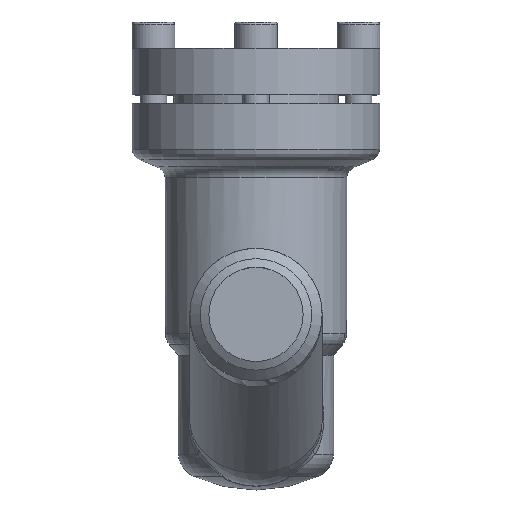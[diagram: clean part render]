
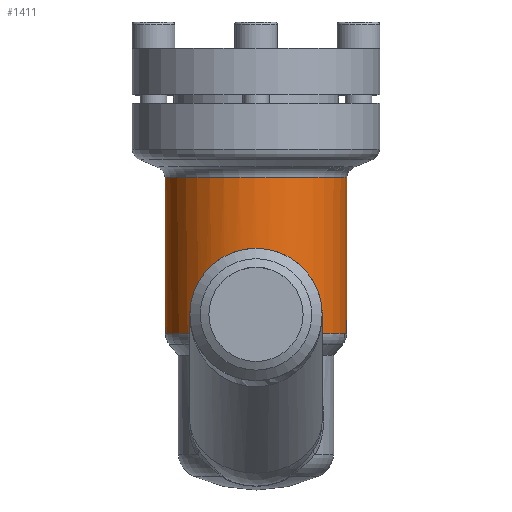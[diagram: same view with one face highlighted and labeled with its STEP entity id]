
A CAD part, top view. The second image highlights one B-rep face of the part: STEP entity #1411.
In plain terms, the highlighted cylindrical face has radius 27.5 mm (diameter 55 mm), a partial arc.
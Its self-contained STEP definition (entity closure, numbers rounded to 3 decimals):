
#96=B_SPLINE_CURVE_WITH_KNOTS('',3,(#3015,#3016,#3017,#3018,#3019,#3020,
#3021,#3022,#3023),.UNSPECIFIED.,.F.,.F.,(4,1,1,1,1,1,4),(6.571,
7.093,7.827,8.378,8.928,9.479,
9.664),.UNSPECIFIED.);
#97=B_SPLINE_CURVE_WITH_KNOTS('',3,(#3025,#3026,#3027,#3028,#3029,#3030,
#3031,#3032,#3033,#3034,#3035,#3036,#3037),.UNSPECIFIED.,.F.,.F.,(4,3,3,
3,4),(-9.665,-9.3,-8.244,-8.198,
-7.097),.UNSPECIFIED.);
#98=B_SPLINE_CURVE_WITH_KNOTS('',3,(#3041,#3042,#3043,#3044,#3045,#3046,
#3047,#3048,#3049,#3050,#3051),.UNSPECIFIED.,.F.,.F.,(4,1,1,1,1,1,1,1,4),
(-3.187,-2.086,-0.985,-0.25,
0.484,0.851,1.218,1.953,2.475),
 .UNSPECIFIED.);
#100=B_SPLINE_CURVE_WITH_KNOTS('',3,(#3252,#3253,#3254,#3255,#3256,#3257,
#3258,#3259,#3260,#3261,#3262,#3263,#3264,#3265,#3266,#3267),
 .UNSPECIFIED.,.F.,.F.,(4,1,1,1,1,1,1,1,1,1,1,1,1,4),(12.885,
13.536,13.753,14.621,14.911,15.489,
15.779,15.996,16.358,16.792,17.226,
17.768,18.094,18.962),.UNSPECIFIED.);
#193=CYLINDRICAL_SURFACE('',#1563,27.5);
#354=FACE_OUTER_BOUND('',#500,.T.);
#500=EDGE_LOOP('',(#1134,#1135,#1136,#1137,#1138,#1139,#1140));
#630=CIRCLE('',#1557,27.5);
#636=CIRCLE('',#1564,27.5);
#637=CIRCLE('',#1565,27.5);
#738=VERTEX_POINT('',#2982);
#739=VERTEX_POINT('',#2983);
#740=VERTEX_POINT('',#3014);
#741=VERTEX_POINT('',#3024);
#742=VERTEX_POINT('',#3039);
#744=VERTEX_POINT('',#3248);
#745=VERTEX_POINT('',#3250);
#879=EDGE_CURVE('',#738,#740,#96,.T.);
#880=EDGE_CURVE('',#740,#741,#97,.T.);
#883=EDGE_CURVE('',#742,#739,#98,.T.);
#885=EDGE_CURVE('',#739,#738,#630,.T.);
#889=EDGE_CURVE('',#745,#744,#100,.T.);
#900=EDGE_CURVE('',#744,#742,#636,.T.);
#901=EDGE_CURVE('',#741,#745,#637,.T.);
#1134=ORIENTED_EDGE('',*,*,#879,.F.);
#1135=ORIENTED_EDGE('',*,*,#885,.F.);
#1136=ORIENTED_EDGE('',*,*,#883,.F.);
#1137=ORIENTED_EDGE('',*,*,#900,.F.);
#1138=ORIENTED_EDGE('',*,*,#889,.F.);
#1139=ORIENTED_EDGE('',*,*,#901,.F.);
#1140=ORIENTED_EDGE('',*,*,#880,.F.);
#1411=ADVANCED_FACE('',(#354),#193,.T.);
#1557=AXIS2_PLACEMENT_3D('',#3133,#1837,#1838);
#1563=AXIS2_PLACEMENT_3D('',#3422,#1849,#1850);
#1564=AXIS2_PLACEMENT_3D('',#3423,#1851,#1852);
#1565=AXIS2_PLACEMENT_3D('',#3424,#1853,#1854);
#1837=DIRECTION('center_axis',(0.,1.,0.));
#1838=DIRECTION('ref_axis',(-1.,0.,0.));
#1849=DIRECTION('center_axis',(0.,1.,0.));
#1850=DIRECTION('ref_axis',(-1.,0.,0.));
#1851=DIRECTION('center_axis',(0.,-1.,0.));
#1852=DIRECTION('ref_axis',(0.,0.,-1.));
#1853=DIRECTION('center_axis',(0.,-1.,0.));
#1854=DIRECTION('ref_axis',(0.,0.,-1.));
#2982=CARTESIAN_POINT('',(14.746,-12.391,-23.212));
#2983=CARTESIAN_POINT('',(-14.746,-12.391,-23.212));
#3014=CARTESIAN_POINT('',(20.819,-37.861,-17.967));
#3015=CARTESIAN_POINT('Ctrl Pts',(14.746,-12.391,-23.212));
#3016=CARTESIAN_POINT('Ctrl Pts',(15.791,-13.097,-22.548));
#3017=CARTESIAN_POINT('Ctrl Pts',(18.112,-15.081,-20.837));
#3018=CARTESIAN_POINT('Ctrl Pts',(20.591,-19.238,-18.301));
#3019=CARTESIAN_POINT('Ctrl Pts',(21.711,-25.101,-16.878));
#3020=CARTESIAN_POINT('Ctrl Pts',(21.729,-30.689,-16.857));
#3021=CARTESIAN_POINT('Ctrl Pts',(21.293,-34.925,-17.41));
#3022=CARTESIAN_POINT('Ctrl Pts',(20.921,-37.274,-17.849));
#3023=CARTESIAN_POINT('Ctrl Pts',(20.82,-37.861,-17.966));
#3024=CARTESIAN_POINT('',(12.735,-59.68,-24.373));
#3025=CARTESIAN_POINT('Ctrl Pts',(20.819,-37.861,-17.967));
#3026=CARTESIAN_POINT('Ctrl Pts',(20.62,-39.016,-18.197));
#3027=CARTESIAN_POINT('Ctrl Pts',(20.393,-40.158,-18.453));
#3028=CARTESIAN_POINT('Ctrl Pts',(20.14,-41.285,-18.725));
#3029=CARTESIAN_POINT('Ctrl Pts',(19.41,-44.545,-19.51));
#3030=CARTESIAN_POINT('Ctrl Pts',(18.47,-47.687,-20.426));
#3031=CARTESIAN_POINT('Ctrl Pts',(17.327,-50.649,-21.355));
#3032=CARTESIAN_POINT('Ctrl Pts',(17.278,-50.777,-21.395));
#3033=CARTESIAN_POINT('Ctrl Pts',(17.228,-50.905,-21.435));
#3034=CARTESIAN_POINT('Ctrl Pts',(17.178,-51.032,-21.475));
#3035=CARTESIAN_POINT('Ctrl Pts',(15.965,-54.11,-22.447));
#3036=CARTESIAN_POINT('Ctrl Pts',(14.503,-57.056,-23.45));
#3037=CARTESIAN_POINT('Ctrl Pts',(12.735,-59.68,-24.373));
#3039=CARTESIAN_POINT('',(-12.735,-59.68,-24.373));
#3041=CARTESIAN_POINT('Ctrl Pts',(-12.735,-59.68,-24.373));
#3042=CARTESIAN_POINT('Ctrl Pts',(-14.507,-57.05,-23.448));
#3043=CARTESIAN_POINT('Ctrl Pts',(-17.416,-51.188,-21.451));
#3044=CARTESIAN_POINT('Ctrl Pts',(-20.048,-42.469,-18.895));
#3045=CARTESIAN_POINT('Ctrl Pts',(-21.462,-34.356,-17.209));
#3046=CARTESIAN_POINT('Ctrl Pts',(-21.829,-28.197,-16.725));
#3047=CARTESIAN_POINT('Ctrl Pts',(-21.405,-23.335,-17.271));
#3048=CARTESIAN_POINT('Ctrl Pts',(-20.341,-18.836,-18.556));
#3049=CARTESIAN_POINT('Ctrl Pts',(-18.121,-15.085,-20.832));
#3050=CARTESIAN_POINT('Ctrl Pts',(-15.794,-13.096,-22.545));
#3051=CARTESIAN_POINT('Ctrl Pts',(-14.746,-12.389,-23.21));
#3133=CARTESIAN_POINT('Origin',(0.,-12.391,
0.));
#3248=CARTESIAN_POINT('',(-17.445,-59.68,21.259));
#3250=CARTESIAN_POINT('',(17.445,-59.68,21.259));
#3252=CARTESIAN_POINT('Ctrl Pts',(17.445,-59.68,21.259));
#3253=CARTESIAN_POINT('Ctrl Pts',(16.765,-57.754,21.816));
#3254=CARTESIAN_POINT('Ctrl Pts',(15.738,-55.253,22.587));
#3255=CARTESIAN_POINT('Ctrl Pts',(13.33,-50.554,24.109));
#3256=CARTESIAN_POINT('Ctrl Pts',(10.992,-47.054,25.309));
#3257=CARTESIAN_POINT('Ctrl Pts',(7.33,-43.492,26.565));
#3258=CARTESIAN_POINT('Ctrl Pts',(4.444,-41.672,27.22));
#3259=CARTESIAN_POINT('Ctrl Pts',(1.437,-40.924,27.491));
#3260=CARTESIAN_POINT('Ctrl Pts',(-1.026,-40.847,27.519));
#3261=CARTESIAN_POINT('Ctrl Pts',(-3.857,-41.467,27.294));
#3262=CARTESIAN_POINT('Ctrl Pts',(-6.983,-43.221,26.662));
#3263=CARTESIAN_POINT('Ctrl Pts',(-10.061,-46.055,25.658));
#3264=CARTESIAN_POINT('Ctrl Pts',(-12.4,-49.166,24.585));
#3265=CARTESIAN_POINT('Ctrl Pts',(-15.097,-53.743,23.061));
#3266=CARTESIAN_POINT('Ctrl Pts',(-16.541,-57.118,22.001));
#3267=CARTESIAN_POINT('Ctrl Pts',(-17.445,-59.68,21.259));
#3422=CARTESIAN_POINT('Origin',(0.,-29.695,
0.));
#3423=CARTESIAN_POINT('Origin',(0.,-59.68,0.));
#3424=CARTESIAN_POINT('Origin',(0.,-59.68,0.));
